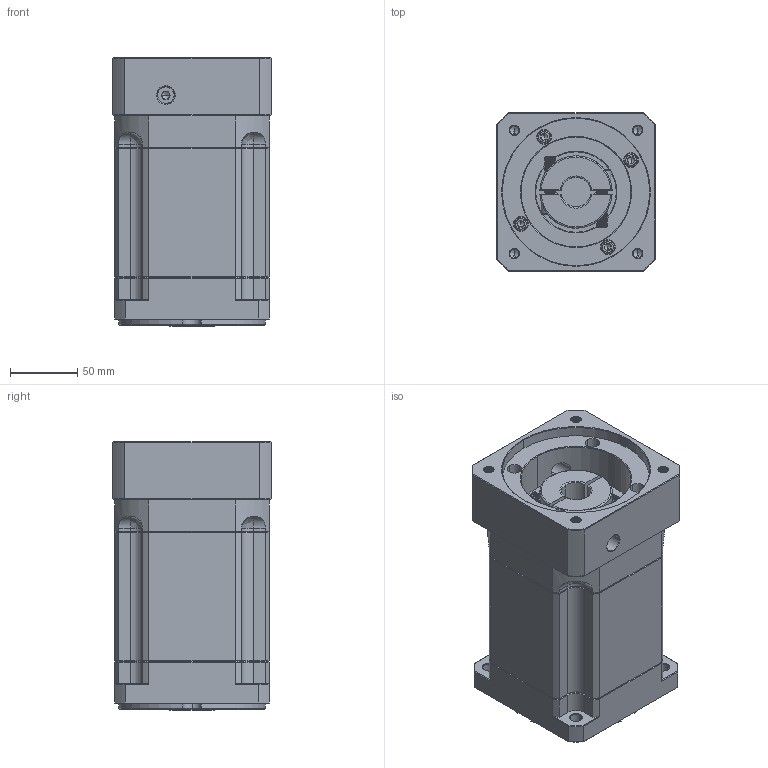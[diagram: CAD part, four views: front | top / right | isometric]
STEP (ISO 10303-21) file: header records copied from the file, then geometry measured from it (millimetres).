
FILE_DESCRIPTION (( 'STEP AP214' ), '1' );
FILE_NAME ('ZB115A-K25-L3-P2-22-110-130-M8.step', '2023-08-26T06:39:18', ( '' ), ( '' ), 'SwSTEP 2.0', 'SolidWorks 2016', '' );
FILE_SCHEMA (( 'AUTOMOTIVE_DESIGN' ));
Length unit declared in the file: millimetre
Products named in the file (1): ZB115A-K25-L3-P2-22-110-130-M8
Bounding box: 118 x 118 x 200.5 mm (x, y, z)
Volume: 2159948.2 mm3; surface area: 191870.3 mm2
Topology: 6 solids, 6 shells, 2341 faces, 6142 edges, 3901 vertices
Faces by surface type: plane 1137, bspline 414, cylinder 408, cone 362, torus 20
Entity records: 123779 total; most frequent: CARTESIAN_POINT 43709, ORIENTED_EDGE 12220, DIRECTION 9720, EDGE_CURVE 6110, VECTOR 3946, LINE 3946, VERTEX_POINT 3901, AXIS2_PLACEMENT_3D 2887
